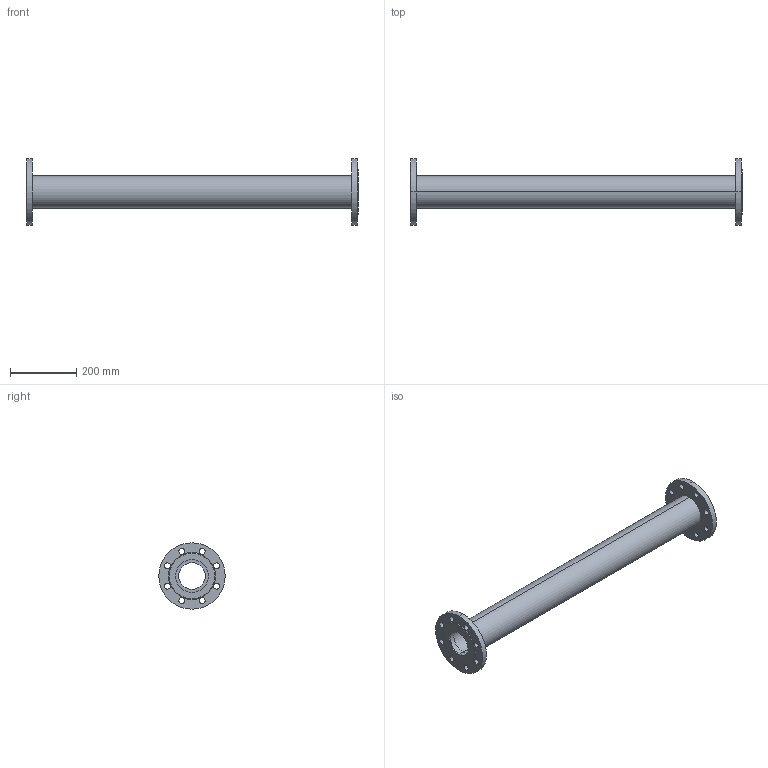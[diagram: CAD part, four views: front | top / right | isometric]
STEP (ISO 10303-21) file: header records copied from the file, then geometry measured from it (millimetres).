
FILE_DESCRIPTION(('STEP AP214'),'1');
FILE_NAME('U:/VDI-Daten/8500/8500_PN16_L1000_DN80.STP','2012-06-12T14:45:45',(' '),(' '),'Spatial InterOp 3D',' ',' ');
FILE_SCHEMA(('automotive_design'));
Length unit declared in the file: millimetre
Products named in the file (5): 3D-Objekt
Bounding box: 1000 x 200 x 200 mm (x, y, z)
Volume: 3364904.4 mm3; surface area: 746547 mm2
Topology: 5 solids, 5 shells, 62 faces, 156 edges, 104 vertices
Faces by surface type: cylinder 48, plane 10, cone 4
Entity records: 2621 total; most frequent: DIRECTION 394, CARTESIAN_POINT 327, ORIENTED_EDGE 312, AXIS2_PLACEMENT_3D 171, EDGE_CURVE 156, EDGE_LOOP 104, VERTEX_POINT 104, CIRCLE 104
